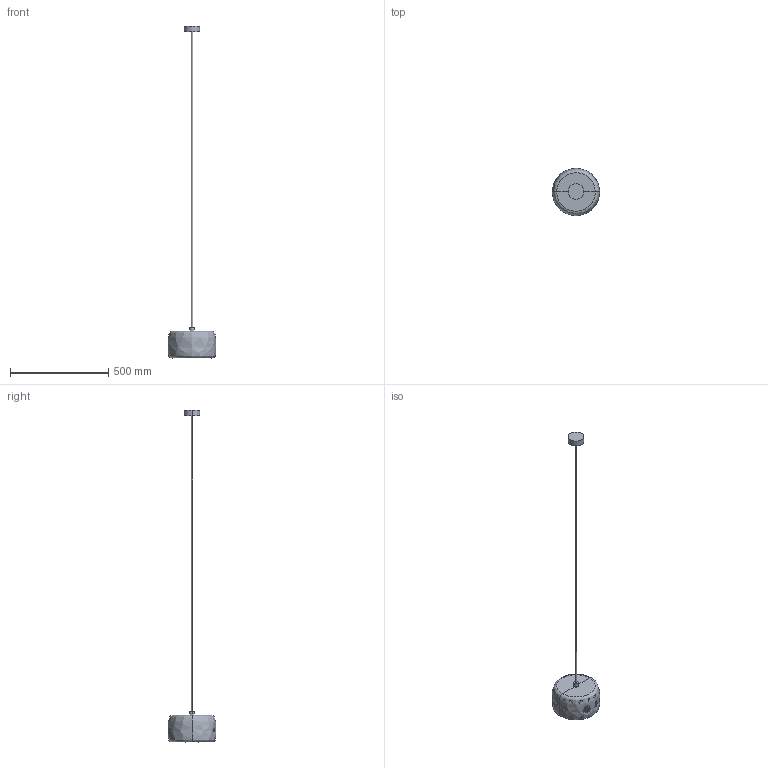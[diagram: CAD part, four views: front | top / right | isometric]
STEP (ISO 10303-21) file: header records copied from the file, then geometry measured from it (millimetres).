
FILE_DESCRIPTION (( 'STEP AP214' ), '1' );
FILE_NAME ('ISES_C1364_1.STEP', '2026-09-11T14:32:07', ( '' ), ( '' ), 'SwSTEP 2.0', 'SolidWorks 2023', '' );
FILE_SCHEMA (( 'AUTOMOTIVE_DESIGN' ));
Length unit declared in the file: millimetre
Products named in the file (1): ISES_C1364_1
Bounding box: 243.21 x 243.24 x 1685.69 mm (x, y, z)
Volume: 1715510.4 mm3; surface area: 334465.3 mm2
Topology: 1 solids, 1 shells, 18 faces, 34 edges, 20 vertices
Faces by surface type: bspline 8, cylinder 6, plane 4
Entity records: 1383 total; most frequent: CARTESIAN_POINT 1059, ORIENTED_EDGE 68, DIRECTION 52, EDGE_CURVE 34, AXIS2_PLACEMENT_3D 23, EDGE_LOOP 20, VERTEX_POINT 20, ADVANCED_FACE 18
